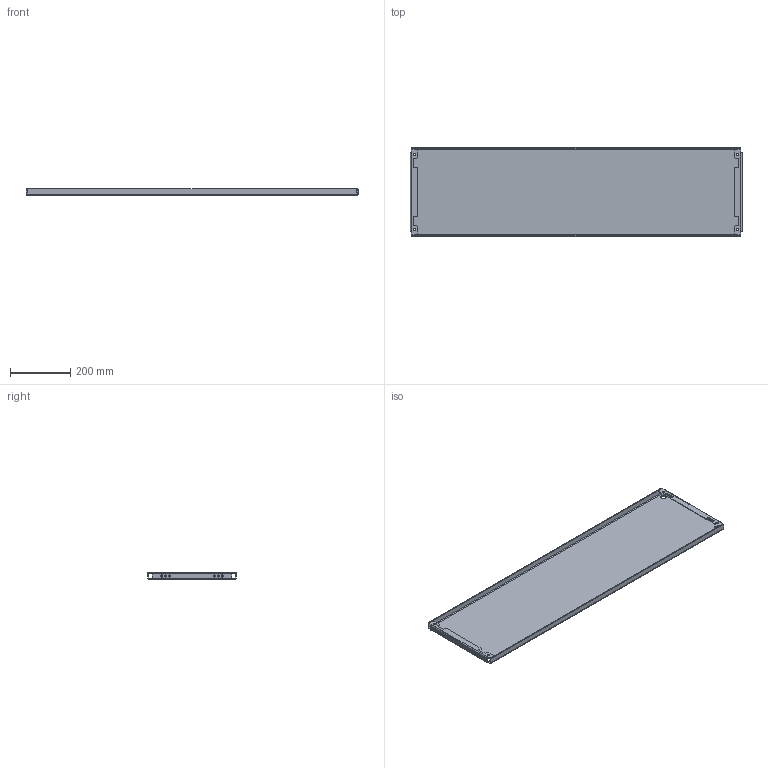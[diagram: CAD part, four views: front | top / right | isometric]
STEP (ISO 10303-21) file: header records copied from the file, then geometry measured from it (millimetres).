
FILE_DESCRIPTION(('STEP AP203'), '1');
FILE_NAME('3550 Ñåêöèîííàÿ ìîíòàæíàÿ ïàíåëü', '', ('UNSPECIFIED'), ('UNSPECIFIED'), 'C3D Converter', 'C3D Toolkit', '');
FILE_SCHEMA(('CONFIG_CONTROL_DESIGN'));
Length unit declared in the file: millimetre
Products named in the file (1): 3550.30.120
Bounding box: 1100 x 292 x 22 mm (x, y, z)
Volume: 760119.3 mm3; surface area: 767645 mm2
Topology: 1 solids, 1 shells, 118 faces, 300 edges, 184 vertices
Faces by surface type: plane 66, cylinder 52
Full cylindrical faces by diameter (mm): 7 x12, 8 x4, 17 x4
Entity records: 3544 total; most frequent: DIRECTION 622, CARTESIAN_POINT 583, ORIENTED_EDGE 560, EDGE_CURVE 280, AXIS2_PLACEMENT_3D 223, VERTEX_POINT 184, EDGE_LOOP 178, LINE 176
